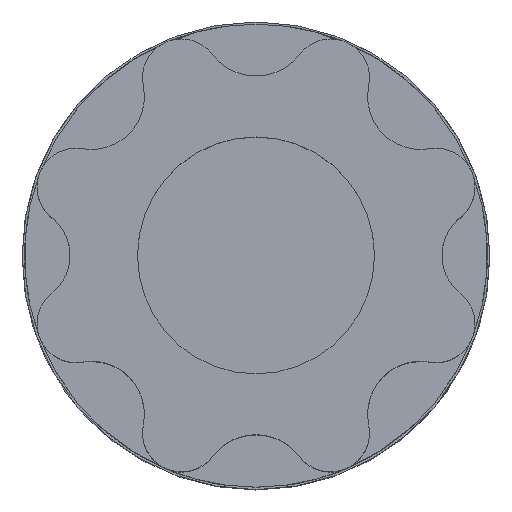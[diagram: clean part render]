
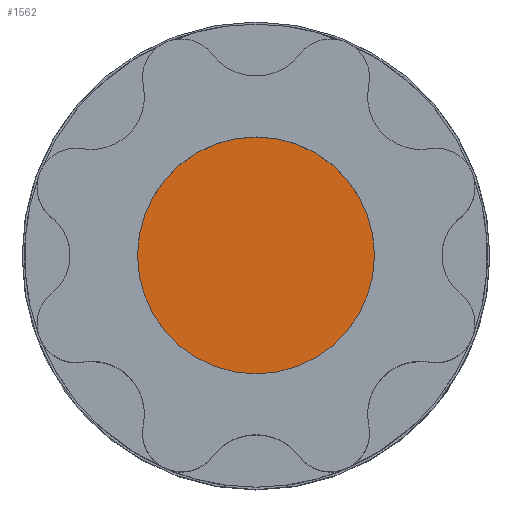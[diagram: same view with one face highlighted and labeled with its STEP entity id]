
A CAD part, top view. The second image highlights one B-rep face of the part: STEP entity #1562.
In plain terms, the highlighted planar face has unit normal (0, 0, 1).
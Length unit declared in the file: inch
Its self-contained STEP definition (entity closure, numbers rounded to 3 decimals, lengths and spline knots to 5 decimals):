
#336 = EDGE_CURVE ( 'NONE', #3465, #3476, #2939, .T. ) ;
#339 = AXIS2_PLACEMENT_3D ( 'NONE', #2048, #2049, #2050 ) ;
#547 = EDGE_CURVE ( 'NONE', #3476, #3465, #1355, .T. ) ;
#1029 = AXIS2_PLACEMENT_3D ( 'NONE', #1965, #1978, #1979 ) ;
#1155 = AXIS2_PLACEMENT_3D ( 'NONE', #3289, #3290, #3291 ) ;
#1355 = CIRCLE ( 'NONE', #1155, 0.38 ) ;
#1562 = ADVANCED_FACE ( 'NONE', ( #2460 ), #1963, .T. ) ;
#1963 = PLANE ( 'NONE',  #1029 ) ;
#1965 = CARTESIAN_POINT ( 'NONE',  ( 0., 0., 2.55582 ) ) ;
#1978 = DIRECTION ( 'NONE',  ( 0., 0., 1. ) ) ;
#1979 = DIRECTION ( 'NONE',  ( 1., 0., 0. ) ) ;
#2048 = CARTESIAN_POINT ( 'NONE',  ( 0., 0., 2.55582 ) ) ;
#2049 = DIRECTION ( 'NONE',  ( 0., 0., 1. ) ) ;
#2050 = DIRECTION ( 'NONE',  ( -1., 0., 0. ) ) ;
#2460 = FACE_OUTER_BOUND ( 'NONE', #2674, .T. ) ;
#2674 = EDGE_LOOP ( 'NONE', ( #3584, #3583 ) ) ;
#2939 = CIRCLE ( 'NONE', #339, 0.38 ) ;
#3133 = CARTESIAN_POINT ( 'NONE',  ( 0.38, 0., 2.55582 ) ) ;
#3138 = CARTESIAN_POINT ( 'NONE',  ( -0.38, 0., 2.55582 ) ) ;
#3289 = CARTESIAN_POINT ( 'NONE',  ( 0., 0., 2.55582 ) ) ;
#3290 = DIRECTION ( 'NONE',  ( 0., 0., 1. ) ) ;
#3291 = DIRECTION ( 'NONE',  ( -1., 0., 0. ) ) ;
#3465 = VERTEX_POINT ( 'NONE', #3133 ) ;
#3476 = VERTEX_POINT ( 'NONE', #3138 ) ;
#3583 = ORIENTED_EDGE ( 'NONE', *, *, #336, .T. ) ;
#3584 = ORIENTED_EDGE ( 'NONE', *, *, #547, .T. ) ;
